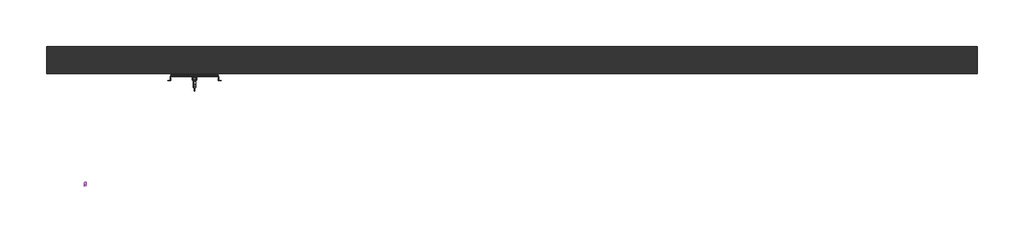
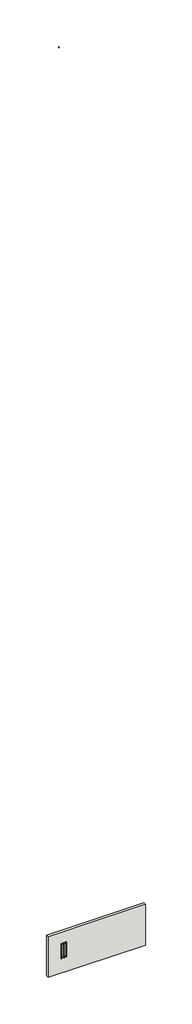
# One storey, incomplete: 3 pipe fittings, 1 pipe segment, 1 wall.
"""IFC4 building model written with IfcOpenShell, lengths in millimetres."""

from ifc_helpers import new_model, si_unit, point, frame, frame_2d, origin, origin_with_axes, place, context, project, spatial, polyline, circle_curve, trimmed, segment, composite_curve, outline, extrude, transform, mapped, element, save
from components import pipe_fitting_515ef42b, chv02_af_87dbff29, chv02_af_7513bb66

model = new_model("IFC4")

# Units and contexts
model_context = context("Model", 3, world=origin())
ifc_project = project(units=[si_unit("LENGTHUNIT", "METRE", prefix="MILLI")], contexts=[model_context])

# Site, building, storey
site = spatial("IfcSite", under=ifc_project)
building = spatial("IfcBuilding", under=site)
storey = spatial("IfcBuildingStorey", under=building, Name="Nível 1", Elevation=0.0)

# Pipe fittings
placement = place(None, origin())
pipe_fitting_shape = pipe_fitting_515ef42b(model_context)
element("IfcPipeFitting", 1, ObjectType="Astra - Curva (Mola Curvadora) : Astra - Curva (Mola Curvadora)", at=placement, inside=storey, context=model_context, shape_type="MappedRepresentation", body=[
    mapped(pipe_fitting_shape, transform((-5221.8502228, 3923.6369374, 68851.4570577), x_axis=(0.0, 0.0, 1.0), y_axis=(0.0, 1.0, 0.0), z_axis=(-1.0, 0.0, 0.0))),
])
element("IfcPipeFitting", 2, ObjectType="Astra - Curva (Mola Curvadora) : Astra - Curva (Mola Curvadora)", at=placement, inside=storey, context=model_context, shape_type="MappedRepresentation", body=[
    mapped(pipe_fitting_shape, transform((-5221.8502228, 3944.1330311, 68900.9390052), x_axis=(0.0, 0.3826834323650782, 0.9238795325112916), y_axis=(0.0, -0.9238795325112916, 0.3826834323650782), z_axis=(1.0, 0.0, 0.0))),
])
chv02_af_shape = chv02_af_87dbff29(model_context)
chv02_af_2_shape = chv02_af_7513bb66(model_context)
element("IfcPipeFitting", 3, ObjectType="CHV02 - AF : Chassi Chuveiro 02 - AF", at=placement, inside=storey, context=model_context, shape_type="MappedRepresentation", body=[
    mapped(chv02_af_shape, transform((-4423.3389568, 4742.2538395, 1100.0), x_axis=(1.0, 0.0, 0.0), y_axis=(0.0, 1.0, 0.0), z_axis=(0.0, 0.0, 1.0))),
    mapped(chv02_af_2_shape, transform((-4423.3389568, 4742.2538395, 1100.0), x_axis=(1.0, 0.0, 0.0), y_axis=(0.0, 1.0, 0.0), z_axis=(0.0, 0.0, 1.0))),
])

# Pipe segment
element("IfcPipeSegment", 4, ObjectType="Astra - PERT - Mola Curvadora AQ", at=placement, inside=storey, context=model_context, shape_type="SweptSolid", body=[
    extrude(outline(composite_curve([segment(trimmed(circle_curve(frame_2d((0.0, 8.0000001)), 8.0), [point((8.0, 8.0000001))], [point((0.0, 0.0))], False, "CARTESIAN"), True, "CONTINUOUS"), segment(trimmed(circle_curve(frame_2d((0.0, 8.0000001)), 8.0), [point((0.0, 0.0))], [point((-8.0, 8.0000001))], False, "CARTESIAN"), True, "CONTINUOUS"), segment(trimmed(circle_curve(frame_2d((0.0, 8.0000001)), 8.0), [point((-8.0, 8.0000001))], [point((0.0, 16.0))], False, "CARTESIAN"), True, "CONTINUOUS"), segment(trimmed(circle_curve(frame_2d((0.0, 8.0000001)), 8.0), [point((0.0, 16.0))], [point((8.0, 8.0000001))], False, "CARTESIAN"), True, "CONTINUOUS")], self_intersect=False)), frame((-5221.8502228, 3922.3355385, 68869.2202104), z_axis=(0.0, 0.3826834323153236, 0.9238795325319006), x_axis=(1.0, 0.0, 0.0)), (0.0, 0.0, 1.0), 21.7328953),
])

# Wall
element("IfcWall", 5, ObjectType="Genérico - 200 mm", at=placement, inside=storey, context=model_context, shape_type="SweptSolid", body=[
    extrude(outline(polyline([(1295.9691655, 4752.2538395), (-5504.0308345, 4752.2538395), (-5504.0308345, 4952.2538395), (1295.9691655, 4952.2538395), (1295.9691655, 4752.2538395)])), origin_with_axes(), (0.0, 0.0, 1.0), 3000.0),
])

save(model, "model.ifc")
